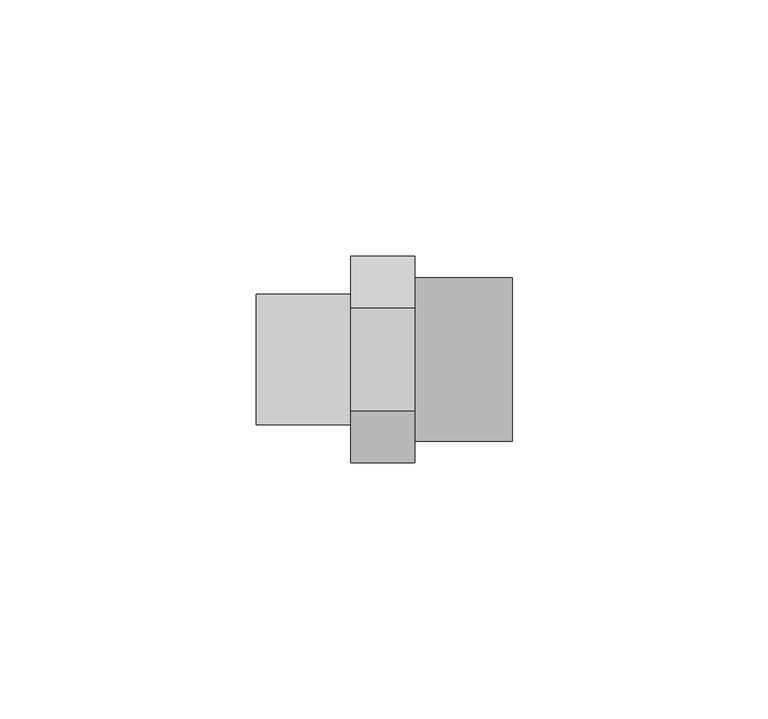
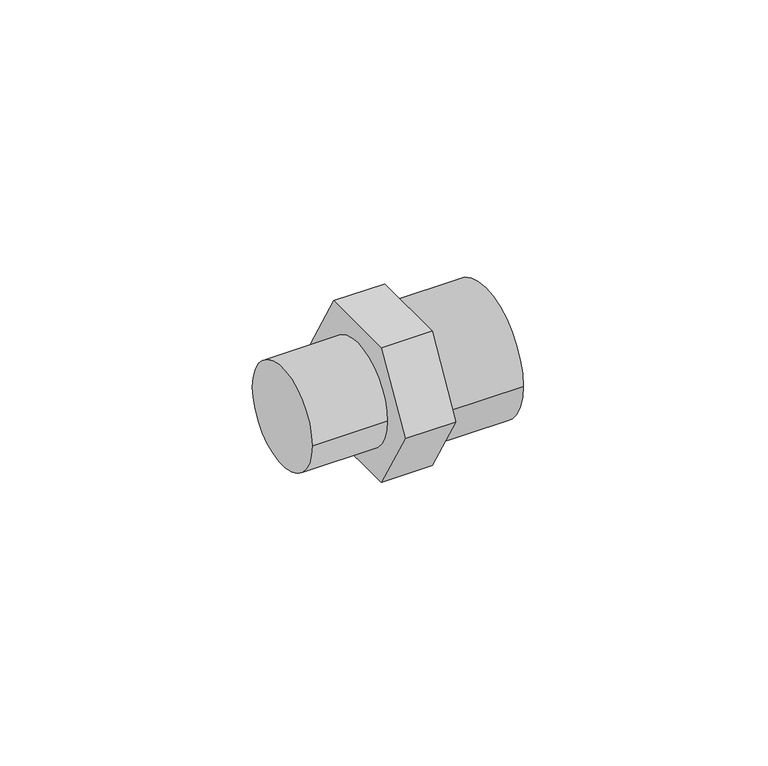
"""IFC4 building model written with IfcOpenShell, lengths in millimetres: pipe fitting geometry, 01101081 : Manguitos multiplos H/M/M."""

from ifc_helpers import new_model, si_unit, point, frame, origin, origin_2d, place, context, project, spatial, polyline, circle_curve, trimmed, segment, composite_curve, outline, extrude, source, transform, mapped, element, save


def pipe_fitting_04d22e4e(model_context):
    return source(origin(), model_context, "Body", "SweptSolid", [
        extrude(outline(composite_curve([segment(trimmed(circle_curve(origin_2d(), 12.7), [point((12.7, 0.0))], [point((-12.7, 0.0))], False, "CARTESIAN"), True, "CONTINUOUS"), segment(trimmed(circle_curve(origin_2d(), 12.7), [point((-12.7, 0.0))], [point((12.7, 0.0))], False, "CARTESIAN"), True, "CONTINUOUS")], self_intersect=False)), frame((0.0, 0.0, 0.0), z_axis=(1.0, 0.0, 0.0), x_axis=(0.0, 1.0, 0.0)), (0.0, 0.0, 1.0), 18.5),
        extrude(outline(polyline([(-10.1036297, 17.5), (10.1036297, 17.5), (20.2072594, 0.0), (10.1036297, -17.5), (-10.1036297, -17.5), (-20.2072594, 0.0), (-10.1036297, 17.5)])), frame((18.5, 0.0, 0.0), z_axis=(1.0, 0.0, 0.0), x_axis=(0.0, 1.0, 0.0)), (0.0, 0.0, 1.0), 12.5),
        extrude(outline(composite_curve([segment(trimmed(circle_curve(origin_2d(), 16.0), [point((-16.0, 0.0))], [point((16.0, 0.0))], False, "CARTESIAN"), True, "CONTINUOUS"), segment(trimmed(circle_curve(origin_2d(), 16.0), [point((16.0, 0.0))], [point((-16.0, 0.0))], False, "CARTESIAN"), True, "CONTINUOUS")], self_intersect=False)), frame((31.0, 0.0, 0.0), z_axis=(1.0, 0.0, 0.0), x_axis=(0.0, 1.0, 0.0)), (0.0, 0.0, 1.0), 19.0),
    ])


if __name__ == "__main__":
    model = new_model("IFC4")
    model_context = context("Model", 3, world=origin())
    ifc_project = project(units=[si_unit("LENGTHUNIT", "METRE", prefix="MILLI")], contexts=[model_context])
    site = spatial("IfcSite", under=ifc_project)
    building = spatial("IfcBuilding", under=site)
    placement = place(None, origin())
    pipe_fitting_shape = pipe_fitting_04d22e4e(model_context)
    element("IfcPipeFitting", 1, ObjectType="01101081 : Manguitos multiplos H/M/M", at=placement, inside=building, context=model_context, shape_type="MappedRepresentation", body=[
        mapped(pipe_fitting_shape, transform((0.0, 0.0, 0.0), x_axis=(1.0, 0.0, 0.0), y_axis=(0.0, 1.0, 0.0), z_axis=(0.0, 0.0, 1.0))),
    ])
    save(model, "model.ifc")
